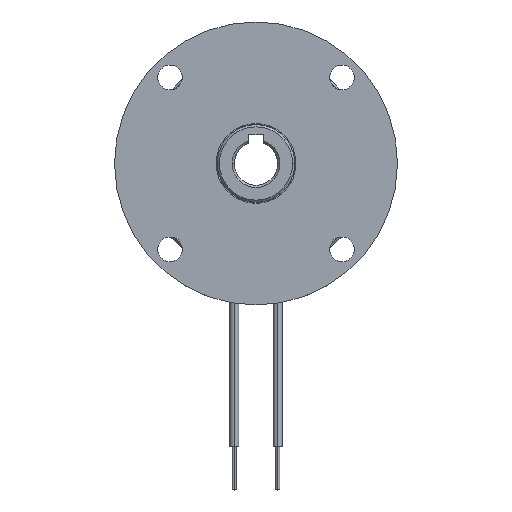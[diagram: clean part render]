
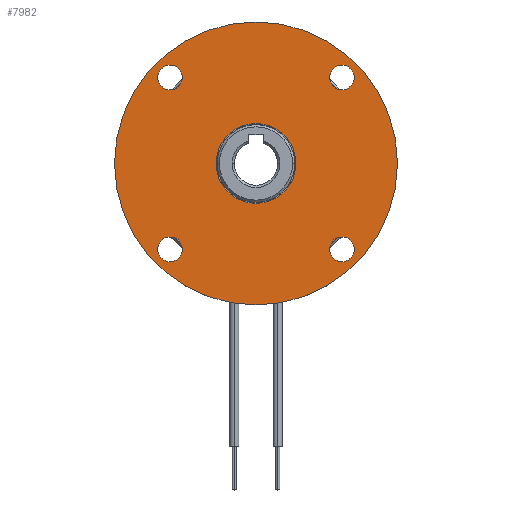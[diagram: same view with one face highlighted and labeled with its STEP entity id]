
A CAD part, top view. The second image highlights one B-rep face of the part: STEP entity #7982.
In plain terms, the highlighted planar face has unit normal (0, 0, 1).
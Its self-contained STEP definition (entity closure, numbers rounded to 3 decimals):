
#457 = CARTESIAN_POINT ( 'NONE',  ( -11.844, 11.844, 0. ) ) ;
#514 = CIRCLE ( 'NONE', #927, 19.5 ) ;
#562 = FACE_BOUND ( 'NONE', #5642, .T. ) ;
#815 = DIRECTION ( 'NONE',  ( 0., 0., -1. ) ) ;
#848 = VERTEX_POINT ( 'NONE', #1130 ) ;
#908 = DIRECTION ( 'NONE',  ( -1., 0., 0. ) ) ;
#927 = AXIS2_PLACEMENT_3D ( 'NONE', #5082, #1042, #7718 ) ;
#1042 = DIRECTION ( 'NONE',  ( 0., 0., -1. ) ) ;
#1059 = CARTESIAN_POINT ( 'NONE',  ( -11.844, -11.844, 0. ) ) ;
#1130 = CARTESIAN_POINT ( 'NONE',  ( -10.144, -11.844, 0. ) ) ;
#1203 = PLANE ( 'NONE',  #5640 ) ;
#1279 = CARTESIAN_POINT ( 'NONE',  ( 11.844, -11.844, 0. ) ) ;
#1379 = ORIENTED_EDGE ( 'NONE', *, *, #2567, .T. ) ;
#1420 = CIRCLE ( 'NONE', #5942, 5.5 ) ;
#1500 = CIRCLE ( 'NONE', #7836, 1.7 ) ;
#1574 = DIRECTION ( 'NONE',  ( 0., 0., -1. ) ) ;
#1580 = CIRCLE ( 'NONE', #3784, 1.7 ) ;
#1598 = VERTEX_POINT ( 'NONE', #7161 ) ;
#1611 = DIRECTION ( 'NONE',  ( -1., 0., 0. ) ) ;
#1676 = EDGE_CURVE ( 'NONE', #2005, #4819, #7678, .T. ) ;
#1725 = DIRECTION ( 'NONE',  ( -1., 0., 0. ) ) ;
#1737 = EDGE_CURVE ( 'NONE', #7036, #848, #4108, .T. ) ;
#1906 = CARTESIAN_POINT ( 'NONE',  ( -13.544, -11.844, 0. ) ) ;
#1913 = CIRCLE ( 'NONE', #5190, 5.5 ) ;
#2005 = VERTEX_POINT ( 'NONE', #2025 ) ;
#2025 = CARTESIAN_POINT ( 'NONE',  ( 10.144, 11.844, 0. ) ) ;
#2141 = CARTESIAN_POINT ( 'NONE',  ( 13.544, 11.844, 0. ) ) ;
#2240 = CARTESIAN_POINT ( 'NONE',  ( 11.844, 11.844, 0. ) ) ;
#2241 = AXIS2_PLACEMENT_3D ( 'NONE', #1279, #4590, #2628 ) ;
#2253 = CARTESIAN_POINT ( 'NONE',  ( -13.544, 11.844, 0. ) ) ;
#2267 = EDGE_CURVE ( 'NONE', #3926, #4319, #514, .T. ) ;
#2289 = DIRECTION ( 'NONE',  ( -1., 0., 0. ) ) ;
#2316 = CARTESIAN_POINT ( 'NONE',  ( 11.844, -11.844, 0. ) ) ;
#2417 = DIRECTION ( 'NONE',  ( 0., 0., -1. ) ) ;
#2445 = FACE_BOUND ( 'NONE', #6815, .T. ) ;
#2449 = DIRECTION ( 'NONE',  ( -1., 0., 0. ) ) ;
#2567 = EDGE_CURVE ( 'NONE', #4608, #4825, #1500, .T. ) ;
#2588 = AXIS2_PLACEMENT_3D ( 'NONE', #3869, #4670, #3441 ) ;
#2610 = AXIS2_PLACEMENT_3D ( 'NONE', #8311, #5701, #8353 ) ;
#2628 = DIRECTION ( 'NONE',  ( -1., 0., 0. ) ) ;
#2840 = ORIENTED_EDGE ( 'NONE', *, *, #7844, .T. ) ;
#2901 = EDGE_CURVE ( 'NONE', #1598, #5256, #1420, .T. ) ;
#3064 = DIRECTION ( 'NONE',  ( 0., 0., -1. ) ) ;
#3100 = AXIS2_PLACEMENT_3D ( 'NONE', #457, #4300, #1725 ) ;
#3126 = ORIENTED_EDGE ( 'NONE', *, *, #3412, .T. ) ;
#3155 = ORIENTED_EDGE ( 'NONE', *, *, #2901, .T. ) ;
#3412 = EDGE_CURVE ( 'NONE', #848, #7036, #1580, .T. ) ;
#3428 = CIRCLE ( 'NONE', #6998, 1.7 ) ;
#3441 = DIRECTION ( 'NONE',  ( -1., 0., 0. ) ) ;
#3452 = ORIENTED_EDGE ( 'NONE', *, *, #7318, .T. ) ;
#3498 = ORIENTED_EDGE ( 'NONE', *, *, #4199, .T. ) ;
#3744 = DIRECTION ( 'NONE',  ( 0., 0., -1. ) ) ;
#3784 = AXIS2_PLACEMENT_3D ( 'NONE', #6159, #1574, #2449 ) ;
#3869 = CARTESIAN_POINT ( 'NONE',  ( 0., 0., 0. ) ) ;
#3879 = CIRCLE ( 'NONE', #2241, 1.7 ) ;
#3926 = VERTEX_POINT ( 'NONE', #7186 ) ;
#4010 = ORIENTED_EDGE ( 'NONE', *, *, #1737, .T. ) ;
#4046 = EDGE_LOOP ( 'NONE', ( #7461, #6658 ) ) ;
#4108 = CIRCLE ( 'NONE', #6566, 1.7 ) ;
#4199 = EDGE_CURVE ( 'NONE', #6934, #6100, #5278, .T. ) ;
#4217 = CIRCLE ( 'NONE', #2588, 19.5 ) ;
#4280 = DIRECTION ( 'NONE',  ( 0., 0., -1. ) ) ;
#4300 = DIRECTION ( 'NONE',  ( 0., 0., -1. ) ) ;
#4319 = VERTEX_POINT ( 'NONE', #5785 ) ;
#4473 = EDGE_LOOP ( 'NONE', ( #4010, #3126 ) ) ;
#4488 = CARTESIAN_POINT ( 'NONE',  ( 13.544, -11.844, 0. ) ) ;
#4510 = CIRCLE ( 'NONE', #7525, 1.7 ) ;
#4556 = ORIENTED_EDGE ( 'NONE', *, *, #5967, .T. ) ;
#4590 = DIRECTION ( 'NONE',  ( 0., 0., -1. ) ) ;
#4608 = VERTEX_POINT ( 'NONE', #4488 ) ;
#4670 = DIRECTION ( 'NONE',  ( 0., 0., -1. ) ) ;
#4767 = CARTESIAN_POINT ( 'NONE',  ( 0., 19.5, 0. ) ) ;
#4819 = VERTEX_POINT ( 'NONE', #2141 ) ;
#4825 = VERTEX_POINT ( 'NONE', #7289 ) ;
#5082 = CARTESIAN_POINT ( 'NONE',  ( 0., 0., 0. ) ) ;
#5115 = DIRECTION ( 'NONE',  ( 0., 0., -1. ) ) ;
#5190 = AXIS2_PLACEMENT_3D ( 'NONE', #6286, #4280, #1611 ) ;
#5256 = VERTEX_POINT ( 'NONE', #6397 ) ;
#5278 = CIRCLE ( 'NONE', #3100, 1.7 ) ;
#5640 = AXIS2_PLACEMENT_3D ( 'NONE', #4767, #815, #5970 ) ;
#5642 = EDGE_LOOP ( 'NONE', ( #2840, #3155 ) ) ;
#5701 = DIRECTION ( 'NONE',  ( 0., 0., -1. ) ) ;
#5704 = DIRECTION ( 'NONE',  ( -1., 0., 0. ) ) ;
#5785 = CARTESIAN_POINT ( 'NONE',  ( 19.5, 0., 0. ) ) ;
#5942 = AXIS2_PLACEMENT_3D ( 'NONE', #8410, #5115, #7755 ) ;
#5967 = EDGE_CURVE ( 'NONE', #4825, #4608, #3879, .T. ) ;
#5970 = DIRECTION ( 'NONE',  ( -1., 0., 0. ) ) ;
#6100 = VERTEX_POINT ( 'NONE', #2253 ) ;
#6101 = ORIENTED_EDGE ( 'NONE', *, *, #2267, .F. ) ;
#6159 = CARTESIAN_POINT ( 'NONE',  ( -11.844, -11.844, 0. ) ) ;
#6179 = CARTESIAN_POINT ( 'NONE',  ( -11.844, 11.844, 0. ) ) ;
#6243 = EDGE_CURVE ( 'NONE', #4319, #3926, #4217, .T. ) ;
#6286 = CARTESIAN_POINT ( 'NONE',  ( 0., 0., 0. ) ) ;
#6397 = CARTESIAN_POINT ( 'NONE',  ( -5.5, 0., 0. ) ) ;
#6426 = EDGE_CURVE ( 'NONE', #4819, #2005, #4510, .T. ) ;
#6492 = FACE_BOUND ( 'NONE', #7326, .T. ) ;
#6566 = AXIS2_PLACEMENT_3D ( 'NONE', #1059, #3744, #2289 ) ;
#6588 = EDGE_LOOP ( 'NONE', ( #6101, #7899 ) ) ;
#6658 = ORIENTED_EDGE ( 'NONE', *, *, #6426, .T. ) ;
#6815 = EDGE_LOOP ( 'NONE', ( #3452, #3498 ) ) ;
#6934 = VERTEX_POINT ( 'NONE', #7070 ) ;
#6998 = AXIS2_PLACEMENT_3D ( 'NONE', #6179, #3064, #5704 ) ;
#7036 = VERTEX_POINT ( 'NONE', #1906 ) ;
#7045 = FACE_OUTER_BOUND ( 'NONE', #6588, .T. ) ;
#7070 = CARTESIAN_POINT ( 'NONE',  ( -10.144, 11.844, 0. ) ) ;
#7115 = FACE_BOUND ( 'NONE', #4046, .T. ) ;
#7161 = CARTESIAN_POINT ( 'NONE',  ( 5.5, 0., 0. ) ) ;
#7186 = CARTESIAN_POINT ( 'NONE',  ( -19.5, 0., 0. ) ) ;
#7289 = CARTESIAN_POINT ( 'NONE',  ( 10.144, -11.844, 0. ) ) ;
#7318 = EDGE_CURVE ( 'NONE', #6100, #6934, #3428, .T. ) ;
#7326 = EDGE_LOOP ( 'NONE', ( #4556, #1379 ) ) ;
#7461 = ORIENTED_EDGE ( 'NONE', *, *, #1676, .T. ) ;
#7525 = AXIS2_PLACEMENT_3D ( 'NONE', #2240, #2417, #908 ) ;
#7678 = CIRCLE ( 'NONE', #2610, 1.7 ) ;
#7718 = DIRECTION ( 'NONE',  ( -1., 0., 0. ) ) ;
#7755 = DIRECTION ( 'NONE',  ( -1., 0., 0. ) ) ;
#7803 = DIRECTION ( 'NONE',  ( -1., 0., 0. ) ) ;
#7836 = AXIS2_PLACEMENT_3D ( 'NONE', #2316, #8496, #7803 ) ;
#7844 = EDGE_CURVE ( 'NONE', #5256, #1598, #1913, .T. ) ;
#7899 = ORIENTED_EDGE ( 'NONE', *, *, #6243, .F. ) ;
#7982 = ADVANCED_FACE ( 'NONE', ( #7115, #6492, #8336, #2445, #7045, #562 ), #1203, .F. ) ;
#8311 = CARTESIAN_POINT ( 'NONE',  ( 11.844, 11.844, 0. ) ) ;
#8336 = FACE_BOUND ( 'NONE', #4473, .T. ) ;
#8353 = DIRECTION ( 'NONE',  ( -1., 0., 0. ) ) ;
#8410 = CARTESIAN_POINT ( 'NONE',  ( 0., 0., 0. ) ) ;
#8496 = DIRECTION ( 'NONE',  ( 0., 0., -1. ) ) ;
